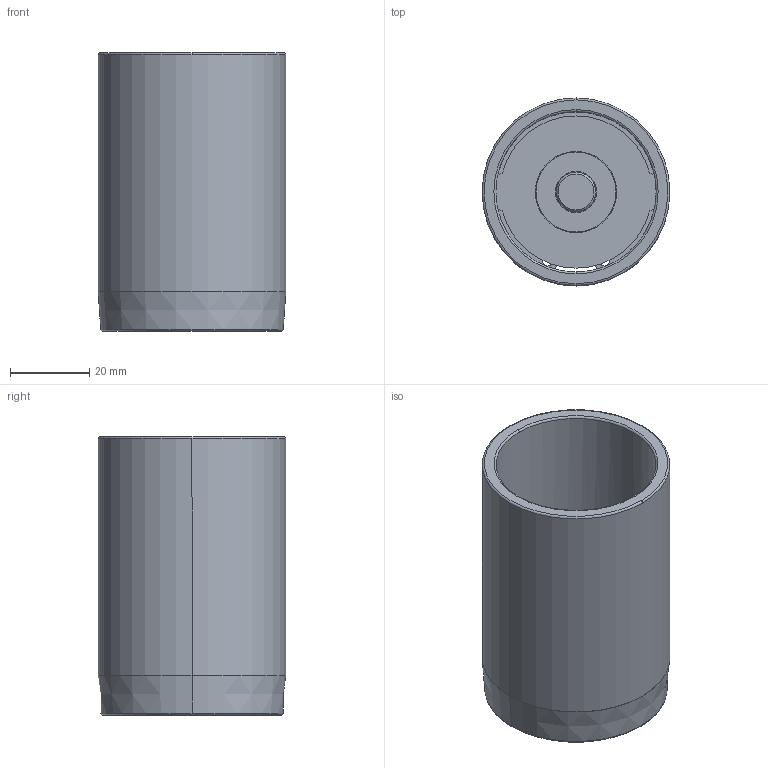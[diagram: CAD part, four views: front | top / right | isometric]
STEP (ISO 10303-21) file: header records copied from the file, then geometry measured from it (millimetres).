
FILE_DESCRIPTION((''),'2;1');
FILE_NAME('C12_040_070.stp','2009-01-28T11:32:28',(''),(''),'Mechanical Desktop 2009','Mechanical Desktop 2009',', , ');
FILE_SCHEMA(('CONFIG_CONTROL_DESIGN'));
Length unit declared in the file: millimetre
Products named in the file (2): Product; blmdl1
Assembly tree (1 placements, depth 2):
  Product
    blmdl1
Bounding box: 47.25 x 47.25 x 70 mm (x, y, z)
Volume: 38956.7 mm3; surface area: 26672.7 mm2
Topology: 5 solids, 5 shells, 79 faces, 200 edges, 134 vertices
Faces by surface type: cylinder 34, plane 29, torus 10, cone 6
Entity records: 2585 total; most frequent: DIRECTION 480, CARTESIAN_POINT 435, ORIENTED_EDGE 400, AXIS2_PLACEMENT_3D 203, EDGE_CURVE 200, VERTEX_POINT 134, CIRCLE 122, EDGE_LOOP 92
